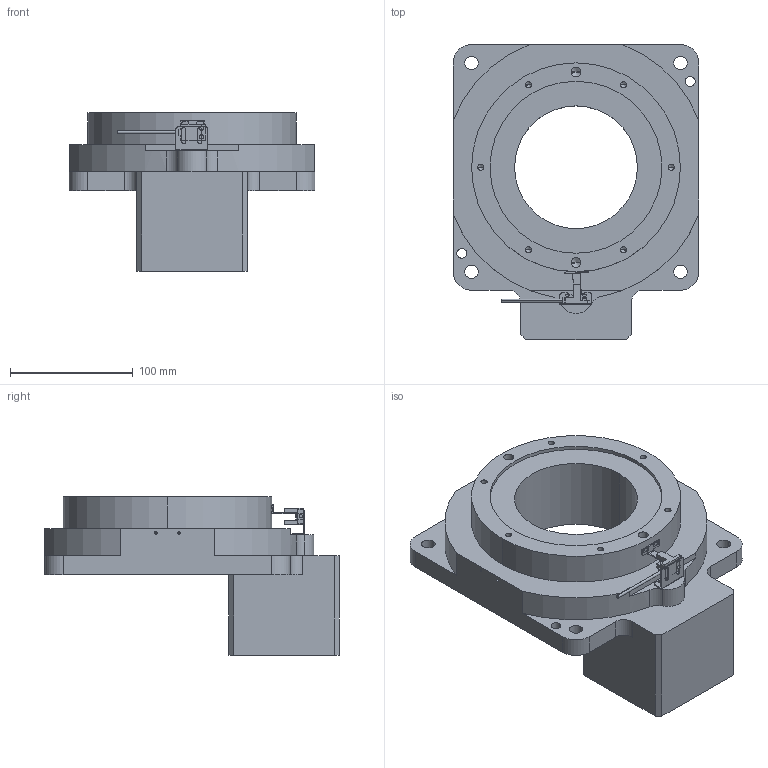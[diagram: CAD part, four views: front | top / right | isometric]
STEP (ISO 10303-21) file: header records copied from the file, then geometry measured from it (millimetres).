
FILE_DESCRIPTION (( 'STEP AP203' ), '1' );
FILE_NAME ('RTN200-18K-14-69.6-73-M6(86祭輛樓63.5詢).STEP', '2024-05-21T10:29:36', ( '' ), ( '' ), 'SwSTEP 2.0', 'SolidWorks 2023', '' );
FILE_SCHEMA (( 'CONFIG_CONTROL_DESIGN' ));
Length unit declared in the file: millimetre
Products named in the file (1): RTN200-18K-14-69.6-73-M6(86步进加63.5高)
Bounding box: 200 x 240 x 129 mm (x, y, z)
Volume: 1962571.3 mm3; surface area: 171589.9 mm2
Topology: 4 solids, 6 shells, 266 faces, 703 edges, 435 vertices
Faces by surface type: cylinder 115, plane 111, cone 40
Entity records: 8079 total; most frequent: DIRECTION 1430, CARTESIAN_POINT 1365, ORIENTED_EDGE 1326, EDGE_CURVE 663, AXIS2_PLACEMENT_3D 500, VERTEX_POINT 435, LINE 430, VECTOR 430
